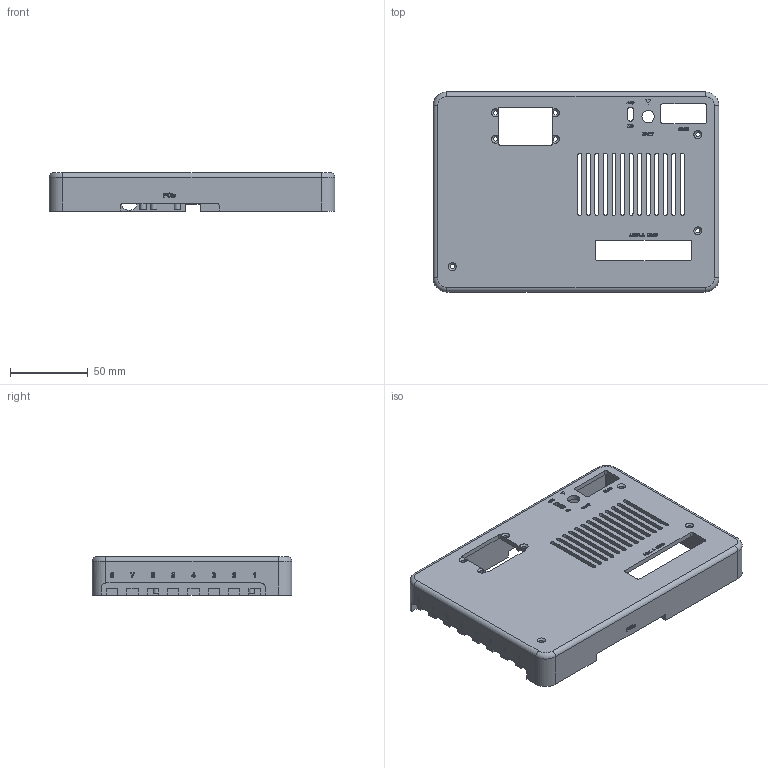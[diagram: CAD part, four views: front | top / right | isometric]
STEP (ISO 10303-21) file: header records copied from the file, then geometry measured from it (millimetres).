
FILE_DESCRIPTION(('Open CASCADE Model'),'2;1');
FILE_NAME('Open CASCADE Shape Model','2026-11-10T13:03:26',('Author'),( 'Open CASCADE'),'Open CASCADE STEP processor 7.7','Open CASCADE 7.7' ,'Unknown');
FILE_SCHEMA(('AUTOMOTIVE_DESIGN { 1 0 10303 214 1 1 1 1 }'));
Length unit declared in the file: millimetre
Products named in the file (1): Open CASCADE STEP translator 7.7 1
Bounding box: 184.1 x 128.75 x 24.7 mm (x, y, z)
Volume: 140483.1 mm3; surface area: 73334.5 mm2
Topology: 1 solids, 1 shells, 1081 faces, 3012 edges, 2005 vertices
Faces by surface type: extrusion 491, plane 463, cylinder 116, cone 7, torus 4
Full cylindrical faces by diameter (mm): 2.9 x7, 3.4 x6, 4 x8, 8 x1, 10.5 x1
Entity records: 74123 total; most frequent: CARTESIAN_POINT 18040, DIRECTION 8384, VECTOR 6512, ORIENTED_EDGE 6024, PCURVE 6024, DEFINITIONAL_REPRESENTATION 6024, LINE 6021, B_SPLINE_CURVE_WITH_KNOTS 3018
